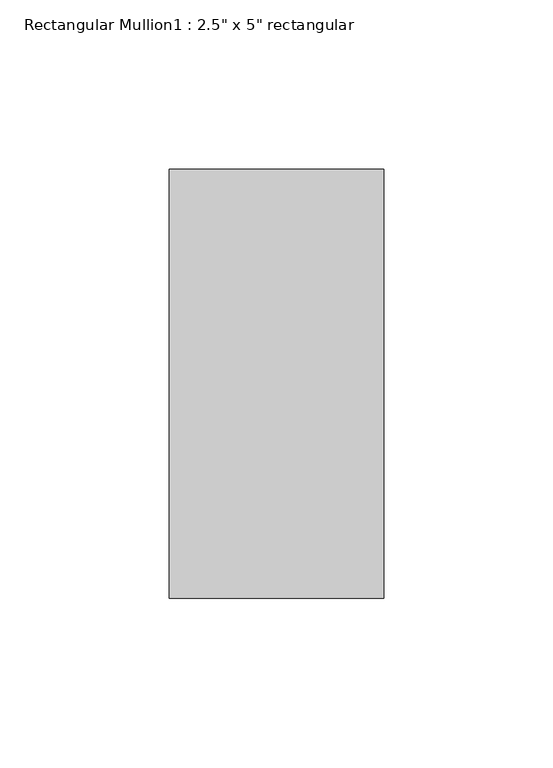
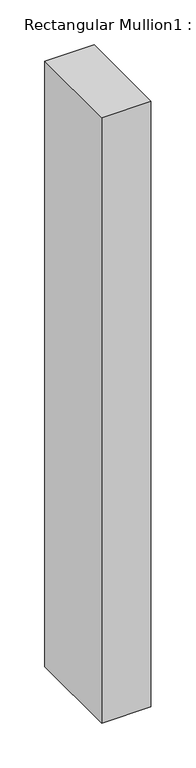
"""IFC4 building model written with IfcOpenShell, lengths in millimetres: member geometry."""

from ifc_helpers import new_model, si_unit, frame, origin, place, context, project, spatial, polyline, outline, extrude, source, transform, mapped, element, save


def member_e9605c56(model_context):
    return source(origin(), model_context, "Body", "SweptSolid", [
        extrude(outline(polyline([(0.0, 63.5), (0.0, -63.5), (-63.5, -63.5), (-63.5, 63.5), (0.0, 63.5)])), frame((0.0, 0.0, -825.5), z_axis=(0.0, 0.0, 1.0), x_axis=(1.0, 0.0, 0.0)), (0.0, 0.0, 1.0), 825.5),
    ])


if __name__ == "__main__":
    model = new_model("IFC4")
    model_context = context("Model", 3, world=origin())
    ifc_project = project(units=[si_unit("LENGTHUNIT", "METRE", prefix="MILLI")], contexts=[model_context])
    site = spatial("IfcSite", under=ifc_project)
    building = spatial("IfcBuilding", under=site)
    placement = place(None, origin())
    member_shape = member_e9605c56(model_context)
    element("IfcMember", 1, ObjectType="Rectangular Mullion1 : 2.5\" x 5\" rectangular", at=placement, inside=building, context=model_context, shape_type="MappedRepresentation", body=[
        mapped(member_shape, transform((0.0, 0.0, 0.0), x_axis=(1.0, 0.0, 0.0), y_axis=(0.0, 1.0, 0.0), z_axis=(0.0, 0.0, 1.0))),
    ])
    save(model, "model.ifc")
